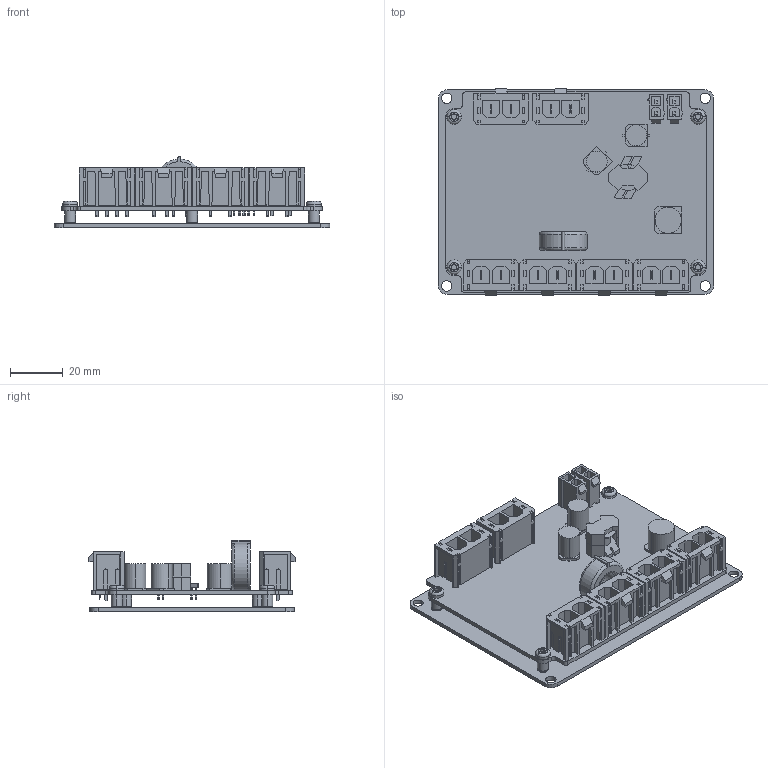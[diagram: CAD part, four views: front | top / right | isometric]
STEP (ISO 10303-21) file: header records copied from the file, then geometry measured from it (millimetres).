
FILE_DESCRIPTION (( 'STEP AP214' ), '1' );
FILE_NAME ('POWER4-HUB.STEP', '2023-10-26T17:44:22', ( '' ), ( '' ), 'SwSTEP 2.0', 'SolidWorks 2020', '' );
FILE_SCHEMA (( 'AUTOMOTIVE_DESIGN' ));
Length unit declared in the file: inch
Products named in the file (1): POWER4-HUB
Bounding box: 104.65 x 78.38 x 27.06 mm (x, y, z)
Volume: 39738.4 mm3; surface area: 52357.1 mm2
Topology: 27 solids, 27 shells, 1947 faces, 5145 edges, 3374 vertices
Faces by surface type: plane 1386, cylinder 421, bspline 76, cone 48, torus 16
Entity records: 66790 total; most frequent: CARTESIAN_POINT 17155, ORIENTED_EDGE 10290, DIRECTION 9060, EDGE_CURVE 5145, LINE 4030, VECTOR 4030, VERTEX_POINT 3374, AXIS2_PLACEMENT_3D 2515
